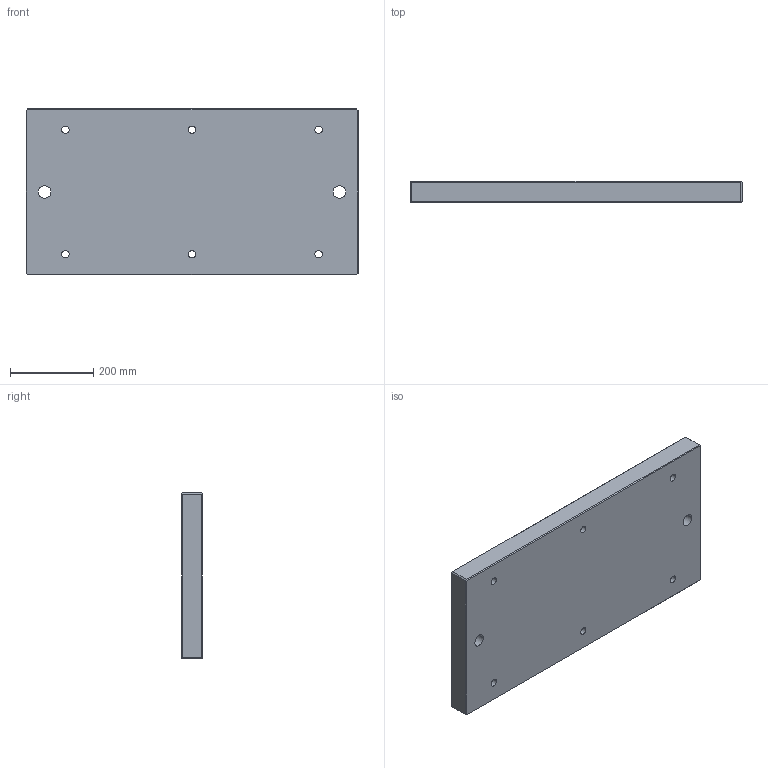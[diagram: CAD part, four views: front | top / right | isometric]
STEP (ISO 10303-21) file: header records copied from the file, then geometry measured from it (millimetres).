
FILE_DESCRIPTION((''),'2;1');
FILE_NAME('FG_WH_BASPL_RCPLNNP003','2026-05-17T09:34:47',('Admin'),(''),'CREO PARAMETRIC BY PTC INC, 2025010','CREO PARAMETRIC BY PTC INC, 2025010','');
FILE_SCHEMA(('CONFIG_CONTROL_DESIGN'));
Length unit declared in the file: millimetre
Products named in the file (1): FG_WH_BASPL_RCPLNNP003
Bounding box: 800 x 50 x 400 mm (x, y, z)
Volume: 15813490.9 mm3; surface area: 777141.7 mm2
Topology: 1 solids, 1 shells, 60 faces, 140 edges, 88 vertices
Faces by surface type: plane 32, cylinder 28
Entity records: 1782 total; most frequent: DIRECTION 316, CARTESIAN_POINT 288, ORIENTED_EDGE 280, EDGE_CURVE 140, AXIS2_PLACEMENT_3D 116, VERTEX_POINT 88, VECTOR 84, LINE 84
